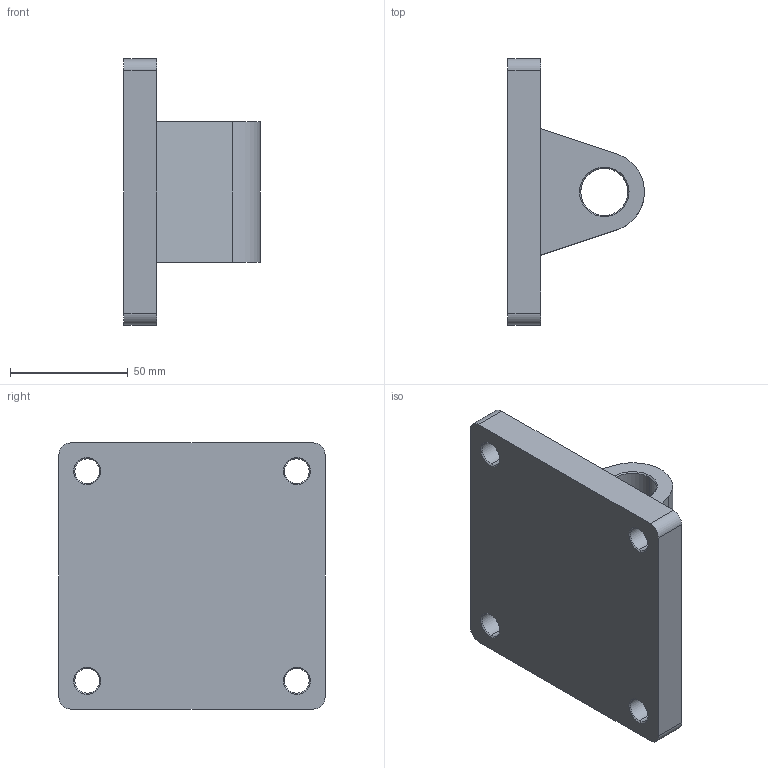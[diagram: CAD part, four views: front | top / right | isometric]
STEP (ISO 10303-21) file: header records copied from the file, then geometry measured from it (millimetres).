
FILE_DESCRIPTION (( 'STEP AP214' ), '1' );
FILE_NAME ('F-SI100CA.STEP', '2016-02-16T16:00:30', ( '' ), ( '' ), 'SwSTEP 2.0', 'SolidWorks 2016', '' );
FILE_SCHEMA (( 'AUTOMOTIVE_DESIGN' ));
Length unit declared in the file: millimetre
Products named in the file (1): F-SI100CA
Bounding box: 57.94 x 113 x 113 mm (x, y, z)
Volume: 253193 mm3; surface area: 42693.9 mm2
Topology: 1 solids, 1 shells, 65 faces, 146 edges, 88 vertices
Faces by surface type: cone 28, cylinder 23, plane 14
Entity records: 1864 total; most frequent: DIRECTION 352, CARTESIAN_POINT 300, ORIENTED_EDGE 292, EDGE_CURVE 146, AXIS2_PLACEMENT_3D 140, VERTEX_POINT 88, EDGE_LOOP 80, CIRCLE 74
